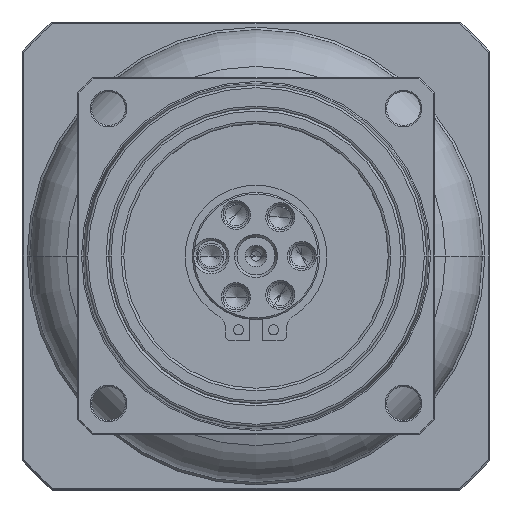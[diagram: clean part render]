
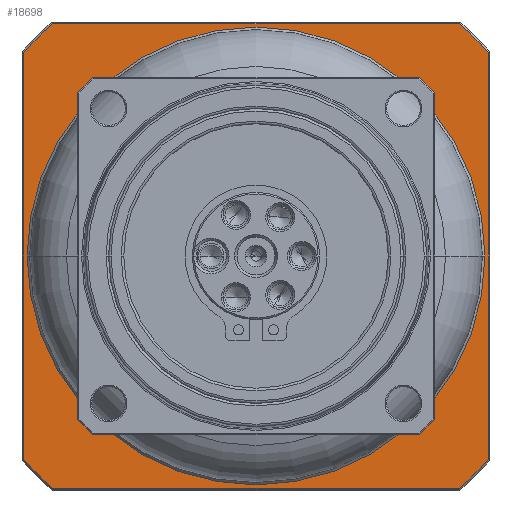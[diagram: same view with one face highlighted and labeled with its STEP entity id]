
A CAD part, left-side view. The second image highlights one B-rep face of the part: STEP entity #18698.
In plain terms, the highlighted planar face has unit normal (-1, 0, 0) as drawn and (0, 0, -1) by its records, which use the part's own axes.
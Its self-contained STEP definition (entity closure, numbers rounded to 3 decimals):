
#17545=CARTESIAN_POINT('',(0.,0.,
2.5));
#17546=DIRECTION('',(0.,0.,-1.));
#17547=DIRECTION('',(0.,-1.,0.));
#17548=AXIS2_PLACEMENT_3D('',#17545,#17546,#17547);
#17550=CARTESIAN_POINT('',(0.,0.,
2.5));
#17551=DIRECTION('',(0.,0.,-1.));
#17552=DIRECTION('',(0.,1.,0.));
#17553=AXIS2_PLACEMENT_3D('',#17550,#17551,#17552);
#17555=CARTESIAN_POINT('',(0.,0.,2.5));
#17556=DIRECTION('',(0.,0.,1.));
#17557=DIRECTION('',(-0.753,-0.658,0.));
#17558=AXIS2_PLACEMENT_3D('',#17555,#17556,#17557);
#17560=DIRECTION('',(1.,0.,0.));
#17561=VECTOR('',#17560,79.9);
#17562=CARTESIAN_POINT('',(-39.95,-45.7,
2.5));
#17563=LINE('',#17562,#17561);
#17564=CARTESIAN_POINT('',(0.,0.,2.5));
#17565=DIRECTION('',(0.,0.,1.));
#17566=DIRECTION('',(0.658,-0.753,0.));
#17567=AXIS2_PLACEMENT_3D('',#17564,#17565,#17566);
#17569=DIRECTION('',(0.,1.,0.));
#17570=VECTOR('',#17569,79.9);
#17571=CARTESIAN_POINT('',(45.7,-39.95,
2.5));
#17572=LINE('',#17571,#17570);
#17573=CARTESIAN_POINT('',(0.,0.,2.5));
#17574=DIRECTION('',(0.,0.,1.));
#17575=DIRECTION('',(0.753,0.658,0.));
#17576=AXIS2_PLACEMENT_3D('',#17573,#17574,#17575);
#17578=DIRECTION('',(-1.,0.,0.));
#17579=VECTOR('',#17578,79.9);
#17580=CARTESIAN_POINT('',(39.95,45.7,2.5));
#17581=LINE('',#17580,#17579);
#17582=CARTESIAN_POINT('',(0.,0.,2.5));
#17583=DIRECTION('',(0.,0.,1.));
#17584=DIRECTION('',(-0.658,0.753,0.));
#17585=AXIS2_PLACEMENT_3D('',#17582,#17583,#17584);
#17587=DIRECTION('',(0.,-1.,0.));
#17588=VECTOR('',#17587,79.9);
#17589=CARTESIAN_POINT('',(-45.7,39.95,
2.5));
#17590=LINE('',#17589,#17588);
#18345=CARTESIAN_POINT('',(0.,-45.,2.5));
#18346=CARTESIAN_POINT('',(0.,45.,
2.5));
#18347=VERTEX_POINT('',#18345);
#18348=VERTEX_POINT('',#18346);
#18409=CARTESIAN_POINT('',(-45.7,-39.95,2.5));
#18410=CARTESIAN_POINT('',(-39.95,-45.7,2.5));
#18411=VERTEX_POINT('',#18409);
#18412=VERTEX_POINT('',#18410);
#18417=CARTESIAN_POINT('',(39.95,-45.7,
2.5));
#18418=VERTEX_POINT('',#18417);
#18421=CARTESIAN_POINT('',(45.7,-39.95,2.5));
#18422=VERTEX_POINT('',#18421);
#18425=CARTESIAN_POINT('',(45.7,39.95,2.5));
#18426=VERTEX_POINT('',#18425);
#18429=CARTESIAN_POINT('',(39.95,45.7,2.5));
#18430=VERTEX_POINT('',#18429);
#18433=CARTESIAN_POINT('',(-39.95,45.7,
2.5));
#18434=VERTEX_POINT('',#18433);
#18439=CARTESIAN_POINT('',(-45.7,39.95,2.5));
#18440=VERTEX_POINT('',#18439);
#18670=CARTESIAN_POINT('',(0.,0.,2.5));
#18671=DIRECTION('',(0.,0.,1.));
#18672=DIRECTION('',(0.,1.,0.));
#18673=AXIS2_PLACEMENT_3D('',#18670,#18671,#18672);
#18674=PLANE('',#18673);
#18676=ORIENTED_EDGE('',*,*,#18675,.T.);
#18678=ORIENTED_EDGE('',*,*,#18677,.T.);
#18680=ORIENTED_EDGE('',*,*,#18679,.T.);
#18682=ORIENTED_EDGE('',*,*,#18681,.T.);
#18684=ORIENTED_EDGE('',*,*,#18683,.T.);
#18686=ORIENTED_EDGE('',*,*,#18685,.T.);
#18688=ORIENTED_EDGE('',*,*,#18687,.T.);
#18690=ORIENTED_EDGE('',*,*,#18689,.T.);
#18691=EDGE_LOOP('',(#18676,#18678,#18680,#18682,#18684,#18686,#18688,#18690));
#18692=FACE_OUTER_BOUND('',#18691,.F.);
#18694=ORIENTED_EDGE('',*,*,#18693,.T.);
#18695=ORIENTED_EDGE('',*,*,#18660,.T.);
#18696=EDGE_LOOP('',(#18694,#18695));
#18697=FACE_BOUND('',#18696,.F.);
#18698=ADVANCED_FACE('',(#18692,#18697),#18674,.F.);
#17549=CIRCLE('',#17548,45.);
#17554=CIRCLE('',#17553,45.);
#17559=CIRCLE('',#17558,60.7);
#17568=CIRCLE('',#17567,60.7);
#17577=CIRCLE('',#17576,60.7);
#17586=CIRCLE('',#17585,60.7);
#18660=EDGE_CURVE('',#18348,#18347,#17554,.T.);
#18675=EDGE_CURVE('',#18411,#18412,#17559,.T.);
#18677=EDGE_CURVE('',#18412,#18418,#17563,.T.);
#18679=EDGE_CURVE('',#18418,#18422,#17568,.T.);
#18681=EDGE_CURVE('',#18422,#18426,#17572,.T.);
#18683=EDGE_CURVE('',#18426,#18430,#17577,.T.);
#18685=EDGE_CURVE('',#18430,#18434,#17581,.T.);
#18687=EDGE_CURVE('',#18434,#18440,#17586,.T.);
#18689=EDGE_CURVE('',#18440,#18411,#17590,.T.);
#18693=EDGE_CURVE('',#18347,#18348,#17549,.T.);
